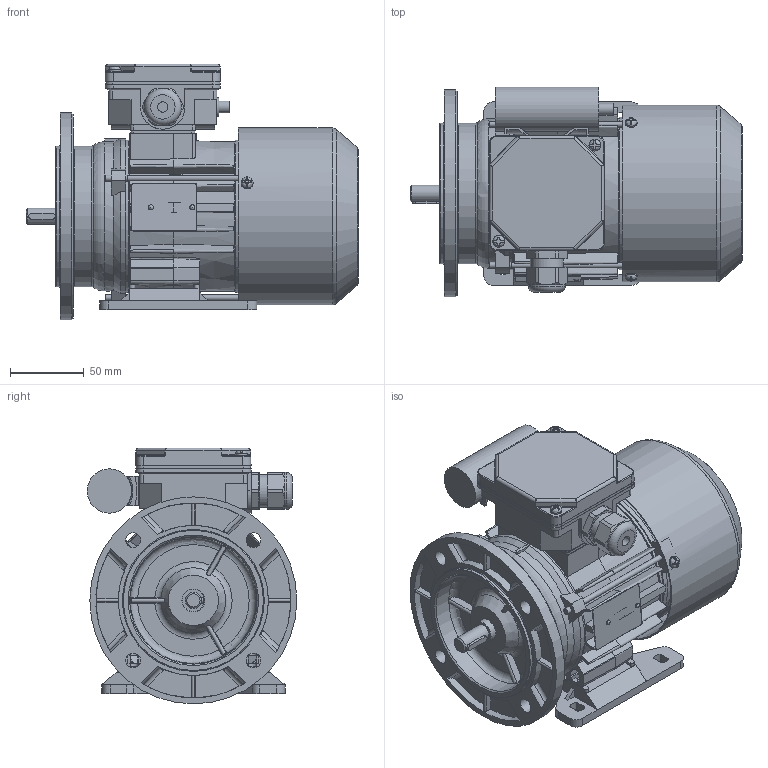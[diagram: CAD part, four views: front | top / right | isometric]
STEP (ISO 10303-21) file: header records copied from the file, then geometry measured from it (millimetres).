
FILE_DESCRIPTION( ( 'Unknown' ), '1' );
FILE_NAME( 'G:/Poczta Tk-1/STP/w.m.63/SEh63/SE(M)Lh63-C.stp', 'Unknown', ( 'K. Szlosek' ), ( 'BESEL S.A.' ), 'PSStep 17.0.49', 'Unknown', ' ' );
FILE_SCHEMA( ( 'AUTOMOTIVE_DESIGN { 1 0 10303 214 1 1 1 1 }' ) );
Length unit declared in the file: millimetre
Products named in the file (33): Assem1; K3-9973 Kadłub ze stojanem wykończonym Sh63-C; K3-5320 Tarcza łożyskowa P Sg63; K4-2320 Uszczelka nr 1 Sh71,80; Wpust A4x4x18; K3-5321 osłona przewietrznika Sg63; K4-2820 Uszczelka nr 2 Sh71,80; K2-0860 Pokrywka skrzynki zaciskowej; Wkręt samogwintujący M4x16; K4-0898 Tulejka uszczelniająca; Kondensator zb 8-10uF; K2-1769 Przewietrznik Sg63; Wkręt samogwintujący M4x8; K1-1110 Tarcza kołnierzowa nowa SKg63-..; K1-1107 Łapa Sg63-.. w. robocza; K3-9974 wał Sh63-C standard; K3-9440 Podstawa  skrzynki zaciskowej SEhR71-D; K3-1974 Uchwyt kondensatora (mały); Dławnica M20x1,5; Łożysko 6202; Śruba ściągająca E_M4x100; Tabliczka znamionowa 32x44; Nitokołek A 2x6
Assembly tree (49 placements, depth 2):
  Assem1
    K3-9973 Kadłub ze stojanem wykończonym Sh63-C
    K3-5320 Tarcza łożyskowa P Sg63
    K4-2320 Uszczelka nr 1 Sh71,80
    Wpust A4x4x18
    K3-5321 osłona przewietrznika Sg63
    K4-2820 Uszczelka nr 2 Sh71,80
    K2-0860 Pokrywka skrzynki zaciskowej
    Wkręt samogwintujący M4x16  x2
    K4-0898 Tulejka uszczelniająca
    Kondensator zb 8-10uF
    K2-1769 Przewietrznik Sg63
    Wkręt samogwintujący M4x8  x3
    K1-1110 Tarcza kołnierzowa nowa SKg63-..
    K1-1107 Łapa Sg63-.. w. robocza
    K3-9974 wał Sh63-C standard
    K3-9440 Podstawa  skrzynki zaciskowej SEhR71-D
    K3-1974 Uchwyt kondensatora (mały)
    Dławnica M20x1,5
    Łożysko 6202  x2
    Łożysko 6202  x2
    Łożysko 6202  x2
    Łożysko 6202  x2
    Łożysko 6202  x2
    Łożysko 6202  x2
    Łożysko 6202  x2
    Łożysko 6202  x2
    Łożysko 6202  x2
    Łożysko 6202  x2
    Łożysko 6202  x2
    Śruba ściągająca E_M4x100  x3
    Tabliczka znamionowa 32x44
    Nitokołek A 2x6  x2
Bounding box: 224.5 x 141.82 x 173 mm (x, y, z)
Volume: 665723.8 mm3; surface area: 402910.6 mm2
Topology: 49 solids, 67 shells, 2047 faces, 5622 edges, 3655 vertices
Faces by surface type: plane 1049, cylinder 617, cone 128, torus 116, bspline 98, sphere 39
Full cylindrical faces by diameter (mm): 2 x2, 2.4 x2, 3 x1, 3.3 x3, 3.5 x2, 3.7 x10, 4 x8, 4.5 x4, 4.6 x1, 4.8 x4, 5 x4, 5.8 x4, 6.5 x1, 7 x4, 8 x7, 10 x6, 11 x1, 12.9 x1, 13.1 x1, 13.5 x1, 15 x4, 15.4 x2, 18.38 x1, 18.5 x1, 19 x2, 19.5 x1, 20 x2, 20.1 x1, 21.52 x4, 22.3 x1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
Entity records: 86638 total; most frequent: CARTESIAN_POINT 26447, ORIENTED_EDGE 9758, DIRECTION 9478, EDGE_CURVE 4879, AXIS2_PLACEMENT_3D 3485, VERTEX_POINT 3323, LINE 2508, VECTOR 2508
